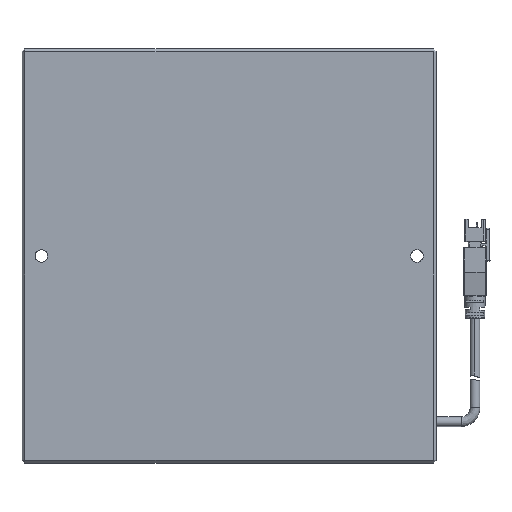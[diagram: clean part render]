
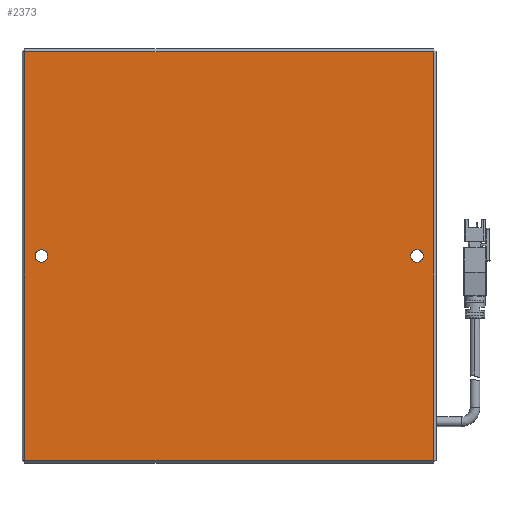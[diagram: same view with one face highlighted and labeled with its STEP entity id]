
A CAD part, top view. The second image highlights one B-rep face of the part: STEP entity #2373.
In plain terms, the highlighted planar face has unit normal (0, 0, 1).
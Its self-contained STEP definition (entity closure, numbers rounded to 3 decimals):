
#39 = FACE_OUTER_BOUND ( 'NONE', #3487, .T. ) ;
#68 = VERTEX_POINT ( 'NONE', #7101 ) ;
#98 = ORIENTED_EDGE ( 'NONE', *, *, #2212, .T. ) ;
#120 = DIRECTION ( 'NONE',  ( 0., 0., -1. ) ) ;
#403 = DIRECTION ( 'NONE',  ( -1., 0., 0. ) ) ;
#561 = EDGE_CURVE ( 'NONE', #788, #3506, #6549, .T. ) ;
#570 = VERTEX_POINT ( 'NONE', #6863 ) ;
#665 = DIRECTION ( 'NONE',  ( 0., 1., 0. ) ) ;
#788 = VERTEX_POINT ( 'NONE', #1144 ) ;
#1046 = PLANE ( 'NONE',  #4200 ) ;
#1144 = CARTESIAN_POINT ( 'NONE',  ( 70.25, 0., 10.5 ) ) ;
#1174 = DIRECTION ( 'NONE',  ( 1., 0., 0. ) ) ;
#1214 = VECTOR ( 'NONE', #3504, 1000. ) ;
#1258 = ORIENTED_EDGE ( 'NONE', *, *, #5691, .T. ) ;
#1311 = ORIENTED_EDGE ( 'NONE', *, *, #4687, .T. ) ;
#1316 = LINE ( 'NONE', #6971, #5235 ) ;
#1354 = EDGE_LOOP ( 'NONE', ( #1258, #7966 ) ) ;
#1389 = DIRECTION ( 'NONE',  ( -1., 0., 0. ) ) ;
#1471 = DIRECTION ( 'NONE',  ( -1., 0., 0. ) ) ;
#1511 = CIRCLE ( 'NONE', #3881, 2.25 ) ;
#1824 = ORIENTED_EDGE ( 'NONE', *, *, #6196, .T. ) ;
#1887 = EDGE_CURVE ( 'NONE', #3341, #570, #3868, .T. ) ;
#1925 = CARTESIAN_POINT ( 'NONE',  ( 68., 0., 10.5 ) ) ;
#2212 = EDGE_CURVE ( 'NONE', #6445, #3341, #1316, .T. ) ;
#2292 = CARTESIAN_POINT ( 'NONE',  ( -74., 74., 10.5 ) ) ;
#2373 = ADVANCED_FACE ( 'NONE', ( #39, #3206, #4546 ), #1046, .T. ) ;
#2397 = VERTEX_POINT ( 'NONE', #5628 ) ;
#2406 = CARTESIAN_POINT ( 'NONE',  ( 75., -74., 10.5 ) ) ;
#2537 = CARTESIAN_POINT ( 'NONE',  ( 65.75, 0., 10.5 ) ) ;
#2943 = DIRECTION ( 'NONE',  ( 0., 0., -1. ) ) ;
#3154 = EDGE_CURVE ( 'NONE', #7327, #2397, #5034, .T. ) ;
#3206 = FACE_BOUND ( 'NONE', #6612, .T. ) ;
#3244 = AXIS2_PLACEMENT_3D ( 'NONE', #1925, #120, #6269 ) ;
#3341 = VERTEX_POINT ( 'NONE', #2292 ) ;
#3368 = AXIS2_PLACEMENT_3D ( 'NONE', #6619, #2943, #403 ) ;
#3410 = DIRECTION ( 'NONE',  ( -1., 0., 0. ) ) ;
#3487 = EDGE_LOOP ( 'NONE', ( #98, #7091, #1824, #1311 ) ) ;
#3504 = DIRECTION ( 'NONE',  ( 0., -1., 0. ) ) ;
#3506 = VERTEX_POINT ( 'NONE', #2537 ) ;
#3868 = LINE ( 'NONE', #6589, #1214 ) ;
#3881 = AXIS2_PLACEMENT_3D ( 'NONE', #4360, #6847, #1389 ) ;
#4018 = EDGE_CURVE ( 'NONE', #2397, #7327, #7910, .T. ) ;
#4021 = CARTESIAN_POINT ( 'NONE',  ( -68., 0., 10.5 ) ) ;
#4096 = DIRECTION ( 'NONE',  ( 0., 0., 1. ) ) ;
#4200 = AXIS2_PLACEMENT_3D ( 'NONE', #4287, #4096, #1174 ) ;
#4287 = CARTESIAN_POINT ( 'NONE',  ( 0., 0., 10.5 ) ) ;
#4360 = CARTESIAN_POINT ( 'NONE',  ( 68., 0., 10.5 ) ) ;
#4546 = FACE_BOUND ( 'NONE', #1354, .T. ) ;
#4553 = AXIS2_PLACEMENT_3D ( 'NONE', #4021, #6302, #3410 ) ;
#4618 = CARTESIAN_POINT ( 'NONE',  ( 74., 74., 10.5 ) ) ;
#4687 = EDGE_CURVE ( 'NONE', #68, #6445, #7482, .T. ) ;
#5027 = CARTESIAN_POINT ( 'NONE',  ( -70.25, 0., 10.5 ) ) ;
#5034 = CIRCLE ( 'NONE', #4553, 2.25 ) ;
#5235 = VECTOR ( 'NONE', #1471, 1000. ) ;
#5329 = LINE ( 'NONE', #2406, #6200 ) ;
#5628 = CARTESIAN_POINT ( 'NONE',  ( -65.75, 0., 10.5 ) ) ;
#5691 = EDGE_CURVE ( 'NONE', #3506, #788, #1511, .T. ) ;
#6196 = EDGE_CURVE ( 'NONE', #570, #68, #5329, .T. ) ;
#6200 = VECTOR ( 'NONE', #6702, 1000. ) ;
#6269 = DIRECTION ( 'NONE',  ( -1., 0., 0. ) ) ;
#6302 = DIRECTION ( 'NONE',  ( 0., 0., -1. ) ) ;
#6445 = VERTEX_POINT ( 'NONE', #4618 ) ;
#6549 = CIRCLE ( 'NONE', #3244, 2.25 ) ;
#6589 = CARTESIAN_POINT ( 'NONE',  ( -74., -75., 10.5 ) ) ;
#6612 = EDGE_LOOP ( 'NONE', ( #7978, #7568 ) ) ;
#6619 = CARTESIAN_POINT ( 'NONE',  ( -68., 0., 10.5 ) ) ;
#6702 = DIRECTION ( 'NONE',  ( 1., 0., 0. ) ) ;
#6847 = DIRECTION ( 'NONE',  ( 0., 0., -1. ) ) ;
#6863 = CARTESIAN_POINT ( 'NONE',  ( -74., -74., 10.5 ) ) ;
#6971 = CARTESIAN_POINT ( 'NONE',  ( -75., 74., 10.5 ) ) ;
#7091 = ORIENTED_EDGE ( 'NONE', *, *, #1887, .T. ) ;
#7101 = CARTESIAN_POINT ( 'NONE',  ( 74., -74., 10.5 ) ) ;
#7274 = VECTOR ( 'NONE', #665, 1000. ) ;
#7294 = CARTESIAN_POINT ( 'NONE',  ( 74., 75., 10.5 ) ) ;
#7327 = VERTEX_POINT ( 'NONE', #5027 ) ;
#7482 = LINE ( 'NONE', #7294, #7274 ) ;
#7568 = ORIENTED_EDGE ( 'NONE', *, *, #4018, .T. ) ;
#7910 = CIRCLE ( 'NONE', #3368, 2.25 ) ;
#7966 = ORIENTED_EDGE ( 'NONE', *, *, #561, .T. ) ;
#7978 = ORIENTED_EDGE ( 'NONE', *, *, #3154, .T. ) ;
